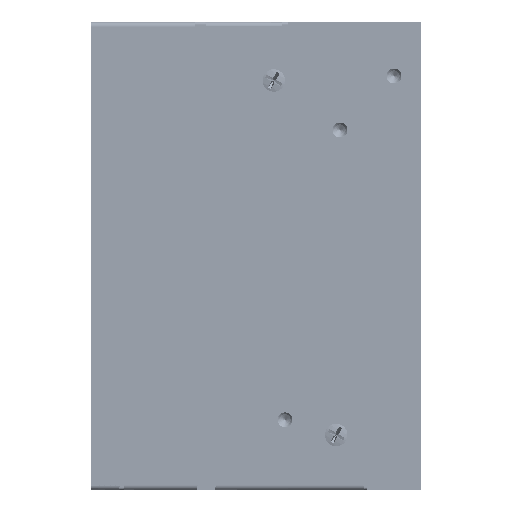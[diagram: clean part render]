
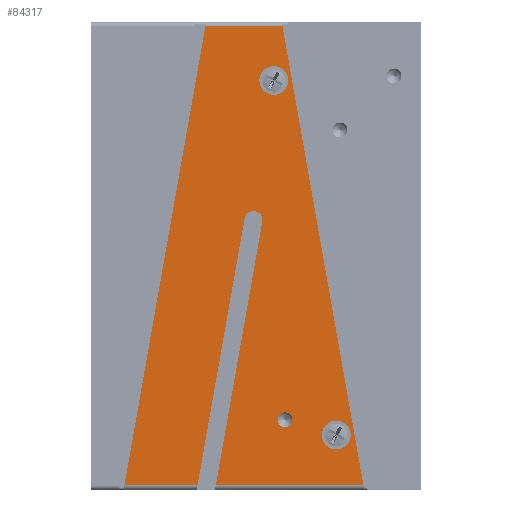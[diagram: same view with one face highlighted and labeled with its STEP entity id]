
A CAD part, left-side view. The second image highlights one B-rep face of the part: STEP entity #84317.
In plain terms, the highlighted planar face has unit normal (-1, 0, 0).
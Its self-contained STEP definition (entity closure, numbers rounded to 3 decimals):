
#1457 = VERTEX_POINT ( 'NONE', #105332 ) ;
#6825 = EDGE_CURVE ( 'NONE', #126255, #191030, #45492, .T. ) ;
#7096 = AXIS2_PLACEMENT_3D ( 'NONE', #263270, #241526, #64353 ) ;
#11155 = VECTOR ( 'NONE', #171820, 1000. ) ;
#12598 = ORIENTED_EDGE ( 'NONE', *, *, #218108, .F. ) ;
#13073 = ORIENTED_EDGE ( 'NONE', *, *, #206059, .F. ) ;
#14485 = CIRCLE ( 'NONE', #130228, 1.6 ) ;
#15364 = VERTEX_POINT ( 'NONE', #140627 ) ;
#17037 = EDGE_CURVE ( 'NONE', #126255, #42526, #131212, .T. ) ;
#19463 = DIRECTION ( 'NONE',  ( 0., 0.174, -0.985 ) ) ;
#19760 = CARTESIAN_POINT ( 'NONE',  ( 136.796, -110.887, -31.82 ) ) ;
#25194 = DIRECTION ( 'NONE',  ( 0., 0., 1. ) ) ;
#25917 = EDGE_LOOP ( 'NONE', ( #12598, #89392 ) ) ;
#27702 = VERTEX_POINT ( 'NONE', #266949 ) ;
#28366 = CARTESIAN_POINT ( 'NONE',  ( 136.796, -90.94, -75.22 ) ) ;
#28498 = VERTEX_POINT ( 'NONE', #19760 ) ;
#32311 = CARTESIAN_POINT ( 'NONE',  ( 136.796, -117.833, -68.012 ) ) ;
#36954 = FACE_BOUND ( 'NONE', #25917, .T. ) ;
#38372 = EDGE_CURVE ( 'NONE', #15364, #190657, #247303, .T. ) ;
#40628 = EDGE_CURVE ( 'NONE', #143083, #40945, #74949, .T. ) ;
#40945 = VERTEX_POINT ( 'NONE', #274997 ) ;
#42526 = VERTEX_POINT ( 'NONE', #210441 ) ;
#45492 = LINE ( 'NONE', #174835, #274945 ) ;
#46765 = AXIS2_PLACEMENT_3D ( 'NONE', #270691, #46993, #205338 ) ;
#46993 = DIRECTION ( 'NONE',  ( -1., 0., 0. ) ) ;
#47245 = VECTOR ( 'NONE', #19463, 1000. ) ;
#49688 = DIRECTION ( 'NONE',  ( -1., 0., 0. ) ) ;
#50562 = DIRECTION ( 'NONE',  ( 0., 0., 1. ) ) ;
#52942 = DIRECTION ( 'NONE',  ( -1., 0., 0. ) ) ;
#59448 = DIRECTION ( 'NONE',  ( -1., 0., 0. ) ) ;
#61426 = EDGE_CURVE ( 'NONE', #15364, #191030, #281313, .T. ) ;
#64353 = DIRECTION ( 'NONE',  ( 0., 0., 1. ) ) ;
#65312 = AXIS2_PLACEMENT_3D ( 'NONE', #226376, #136320, #50562 ) ;
#68522 = CARTESIAN_POINT ( 'NONE',  ( 136.796, -117.833, -71.212 ) ) ;
#70876 = AXIS2_PLACEMENT_3D ( 'NONE', #90264, #200656, #225256 ) ;
#74848 = CIRCLE ( 'NONE', #46765, 0.825 ) ;
#74949 = LINE ( 'NONE', #207109, #217171 ) ;
#76998 = EDGE_LOOP ( 'NONE', ( #170974, #268333 ) ) ;
#80358 = LINE ( 'NONE', #129674, #47245 ) ;
#84317 = ADVANCED_FACE ( 'NONE', ( #167507, #150019, #36954, #211242 ), #256222, .F. ) ;
#89042 = DIRECTION ( 'NONE',  ( -1., 0., 0. ) ) ;
#89392 = ORIENTED_EDGE ( 'NONE', *, *, #184604, .F. ) ;
#90264 = CARTESIAN_POINT ( 'NONE',  ( 136.796, -112.14, -67.92 ) ) ;
#90685 = CARTESIAN_POINT ( 'NONE',  ( 136.796, -112.14, -68.745 ) ) ;
#91985 = EDGE_LOOP ( 'NONE', ( #287059, #204351, #141186, #286238, #163202, #279219, #133241, #213041, #145289 ) ) ;
#93712 = LINE ( 'NONE', #28366, #119106 ) ;
#99277 = VECTOR ( 'NONE', #181947, 1000. ) ;
#100080 = CARTESIAN_POINT ( 'NONE',  ( 136.796, -112.14, -67.095 ) ) ;
#101056 = DIRECTION ( 'NONE',  ( 0., -0.174, 0.985 ) ) ;
#105332 = CARTESIAN_POINT ( 'NONE',  ( 136.796, -108.631, -44.72 ) ) ;
#108451 = CARTESIAN_POINT ( 'NONE',  ( 136.796, -90.94, -24.22 ) ) ;
#111753 = CARTESIAN_POINT ( 'NONE',  ( 136.796, -120.852, -75.22 ) ) ;
#117206 = VERTEX_POINT ( 'NONE', #32311 ) ;
#119106 = VECTOR ( 'NONE', #270846, 1000. ) ;
#124918 = CIRCLE ( 'NONE', #189999, 1.6 ) ;
#125501 = DIRECTION ( 'NONE',  ( 1., 0., 0. ) ) ;
#126255 = VERTEX_POINT ( 'NONE', #145147 ) ;
#128352 = CARTESIAN_POINT ( 'NONE',  ( 136.796, -90.94, -75.72 ) ) ;
#129674 = CARTESIAN_POINT ( 'NONE',  ( 136.796, -101.735, -79.071 ) ) ;
#130228 = AXIS2_PLACEMENT_3D ( 'NONE', #181907, #49688, #25194 ) ;
#130276 = CIRCLE ( 'NONE', #65312, 1.6 ) ;
#131004 = VERTEX_POINT ( 'NONE', #242829 ) ;
#131212 = LINE ( 'NONE', #196568, #11155 ) ;
#133241 = ORIENTED_EDGE ( 'NONE', *, *, #38372, .F. ) ;
#135602 = ORIENTED_EDGE ( 'NONE', *, *, #251398, .F. ) ;
#136070 = CARTESIAN_POINT ( 'NONE',  ( 136.796, -103.283, -24.22 ) ) ;
#136320 = DIRECTION ( 'NONE',  ( -1., 0., 0. ) ) ;
#140627 = CARTESIAN_POINT ( 'NONE',  ( 136.796, -111.859, -24.22 ) ) ;
#141186 = ORIENTED_EDGE ( 'NONE', *, *, #216791, .F. ) ;
#143083 = VERTEX_POINT ( 'NONE', #205167 ) ;
#145147 = CARTESIAN_POINT ( 'NONE',  ( 136.796, -94.29, -75.22 ) ) ;
#145289 = ORIENTED_EDGE ( 'NONE', *, *, #6825, .F. ) ;
#148546 = DIRECTION ( 'NONE',  ( 0., 0., -1. ) ) ;
#150019 = FACE_BOUND ( 'NONE', #169016, .T. ) ;
#157504 = VERTEX_POINT ( 'NONE', #68522 ) ;
#163202 = ORIENTED_EDGE ( 'NONE', *, *, #40628, .F. ) ;
#165823 = EDGE_CURVE ( 'NONE', #28498, #27702, #130276, .T. ) ;
#166902 = AXIS2_PLACEMENT_3D ( 'NONE', #224055, #89042, #203751 ) ;
#167192 = EDGE_CURVE ( 'NONE', #131004, #42526, #80358, .T. ) ;
#167507 = FACE_BOUND ( 'NONE', #76998, .T. ) ;
#168231 = CIRCLE ( 'NONE', #70876, 0.825 ) ;
#169016 = EDGE_LOOP ( 'NONE', ( #13073, #135602 ) ) ;
#170974 = ORIENTED_EDGE ( 'NONE', *, *, #216455, .F. ) ;
#171820 = DIRECTION ( 'NONE',  ( 0., -1., 0. ) ) ;
#174835 = CARTESIAN_POINT ( 'NONE',  ( 136.796, -103.371, -23.72 ) ) ;
#181907 = CARTESIAN_POINT ( 'NONE',  ( 136.796, -110.887, -30.22 ) ) ;
#181947 = DIRECTION ( 'NONE',  ( 0., -0.174, -0.985 ) ) ;
#184604 = EDGE_CURVE ( 'NONE', #273836, #221795, #74848, .T. ) ;
#189999 = AXIS2_PLACEMENT_3D ( 'NONE', #239591, #59448, #233916 ) ;
#190657 = VERTEX_POINT ( 'NONE', #111753 ) ;
#191030 = VERTEX_POINT ( 'NONE', #136070 ) ;
#195808 = EDGE_CURVE ( 'NONE', #40945, #1457, #257401, .T. ) ;
#196568 = CARTESIAN_POINT ( 'NONE',  ( 136.796, -90.94, -75.22 ) ) ;
#199021 = EDGE_CURVE ( 'NONE', #143083, #190657, #93712, .T. ) ;
#200656 = DIRECTION ( 'NONE',  ( -1., 0., 0. ) ) ;
#203751 = DIRECTION ( 'NONE',  ( 0., 0., 1. ) ) ;
#204351 = ORIENTED_EDGE ( 'NONE', *, *, #167192, .F. ) ;
#205167 = CARTESIAN_POINT ( 'NONE',  ( 136.796, -104.445, -75.22 ) ) ;
#205179 = CARTESIAN_POINT ( 'NONE',  ( 136.796, -120.94, -75.72 ) ) ;
#205338 = DIRECTION ( 'NONE',  ( 0., 0., 1. ) ) ;
#206059 = EDGE_CURVE ( 'NONE', #117206, #157504, #227338, .T. ) ;
#206985 = CARTESIAN_POINT ( 'NONE',  ( 136.796, -108.631, -45.72 ) ) ;
#207109 = CARTESIAN_POINT ( 'NONE',  ( 136.796, -103.704, -79.418 ) ) ;
#210441 = CARTESIAN_POINT ( 'NONE',  ( 136.796, -102.414, -75.22 ) ) ;
#211242 = FACE_OUTER_BOUND ( 'NONE', #91985, .T. ) ;
#213041 = ORIENTED_EDGE ( 'NONE', *, *, #61426, .T. ) ;
#216455 = EDGE_CURVE ( 'NONE', #27702, #28498, #14485, .T. ) ;
#216791 = EDGE_CURVE ( 'NONE', #1457, #131004, #237402, .T. ) ;
#217171 = VECTOR ( 'NONE', #101056, 1000. ) ;
#218108 = EDGE_CURVE ( 'NONE', #221795, #273836, #168231, .T. ) ;
#218761 = DIRECTION ( 'NONE',  ( 0., 1., 0. ) ) ;
#221795 = VERTEX_POINT ( 'NONE', #100080 ) ;
#223270 = AXIS2_PLACEMENT_3D ( 'NONE', #206985, #52942, #276671 ) ;
#224055 = CARTESIAN_POINT ( 'NONE',  ( 136.796, -117.833, -69.612 ) ) ;
#225256 = DIRECTION ( 'NONE',  ( 0., 0., 1. ) ) ;
#225868 = VECTOR ( 'NONE', #218761, 1000. ) ;
#226376 = CARTESIAN_POINT ( 'NONE',  ( 136.796, -110.887, -30.22 ) ) ;
#227338 = CIRCLE ( 'NONE', #166902, 1.6 ) ;
#233916 = DIRECTION ( 'NONE',  ( 0., 0., 1. ) ) ;
#237402 = CIRCLE ( 'NONE', #223270, 1. ) ;
#239591 = CARTESIAN_POINT ( 'NONE',  ( 136.796, -117.833, -69.612 ) ) ;
#241526 = DIRECTION ( 'NONE',  ( -1., 0., 0. ) ) ;
#242829 = CARTESIAN_POINT ( 'NONE',  ( 136.796, -107.646, -45.546 ) ) ;
#246690 = AXIS2_PLACEMENT_3D ( 'NONE', #128352, #125501, #148546 ) ;
#247303 = LINE ( 'NONE', #205179, #99277 ) ;
#251398 = EDGE_CURVE ( 'NONE', #157504, #117206, #124918, .T. ) ;
#256222 = PLANE ( 'NONE',  #246690 ) ;
#257401 = CIRCLE ( 'NONE', #7096, 1. ) ;
#263270 = CARTESIAN_POINT ( 'NONE',  ( 136.796, -108.631, -45.72 ) ) ;
#264795 = DIRECTION ( 'NONE',  ( 0., -0.174, 0.985 ) ) ;
#266949 = CARTESIAN_POINT ( 'NONE',  ( 136.796, -110.887, -28.62 ) ) ;
#268333 = ORIENTED_EDGE ( 'NONE', *, *, #165823, .F. ) ;
#270691 = CARTESIAN_POINT ( 'NONE',  ( 136.796, -112.14, -67.92 ) ) ;
#270846 = DIRECTION ( 'NONE',  ( 0., -1., 0. ) ) ;
#273836 = VERTEX_POINT ( 'NONE', #90685 ) ;
#274945 = VECTOR ( 'NONE', #264795, 1000. ) ;
#274997 = CARTESIAN_POINT ( 'NONE',  ( 136.796, -109.616, -45.893 ) ) ;
#276671 = DIRECTION ( 'NONE',  ( 0., 0., 1. ) ) ;
#279219 = ORIENTED_EDGE ( 'NONE', *, *, #199021, .T. ) ;
#281313 = LINE ( 'NONE', #108451, #225868 ) ;
#286238 = ORIENTED_EDGE ( 'NONE', *, *, #195808, .F. ) ;
#287059 = ORIENTED_EDGE ( 'NONE', *, *, #17037, .T. ) ;
